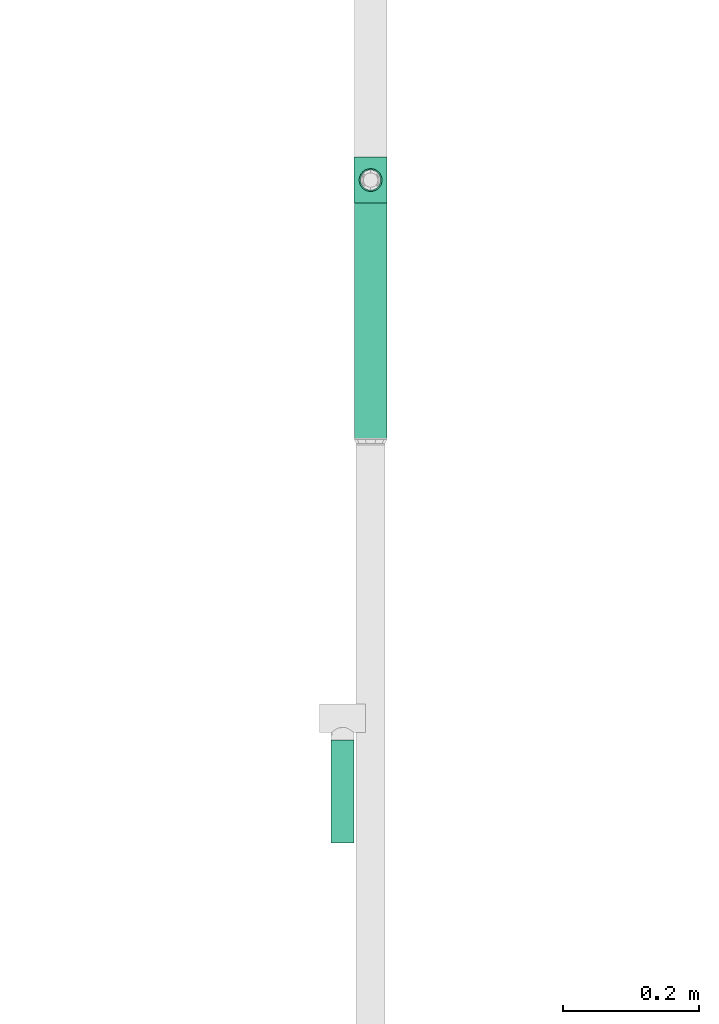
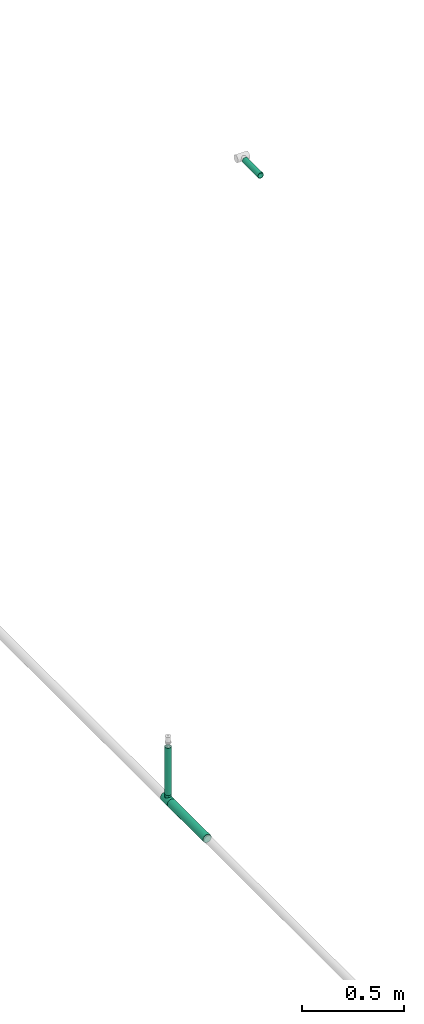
# One storey, part 16 of 63: 3 flow segments, 1 flow fitting.
"""IFC2X3 building model written with IfcOpenShell, lengths in millimetres."""

from ifc_helpers import new_model, entity, si_unit, converted_unit, derived_unit, direction, frame, origin_with_axes, origin_2d_with_axis, place, context, subcontext, project, spatial, hollow_circle, extrude, open_shell, surface_model, source, transform, mapped, type_object, element, save


model = new_model("IFC2X3")

# Units and contexts
model_context = context("Model", 3, precision=0.01, world=frame((0.0, 4.29681676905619e-09, 0.0)), true_north=direction((4.01073788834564e-13, 1.0)))
plan_context = context("Plan", 3, precision=0.01, world=frame((0.0, 4.29681676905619e-09, 0.0)), true_north=direction((4.01073788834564e-13, 1.0)))
body_context = subcontext(model_context, "Body", "Model", "MODEL_VIEW")
ifc_project = project(units=[converted_unit("PLANEANGLEUNIT", "DEGREE", entity("IfcPositiveLengthMeasure", 0.0174532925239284), si_unit("PLANEANGLEUNIT", "RADIAN"), dimensions=[0, 0, 0, 0, 0, 0, 0]), si_unit("AREAUNIT", "SQUARE_METRE"), si_unit("LENGTHUNIT", "METRE", prefix="MILLI"), si_unit("MASSUNIT", "GRAM", prefix="KILO"), si_unit("POWERUNIT", "WATT"), si_unit("PRESSUREUNIT", "PASCAL", prefix="KILO"), si_unit("FORCEUNIT", "NEWTON", prefix="KILO"), si_unit("ELECTRICVOLTAGEUNIT", "VOLT"), si_unit("ELECTRICCURRENTUNIT", "AMPERE"), si_unit("THERMODYNAMICTEMPERATUREUNIT", "DEGREE_CELSIUS"), si_unit("TIMEUNIT", "SECOND"), si_unit("VOLUMEUNIT", "CUBIC_METRE"), derived_unit("LINEARVELOCITYUNIT", [(si_unit("LENGTHUNIT", "METRE"), 1), (si_unit("TIMEUNIT", "SECOND"), -1)]), derived_unit("VOLUMETRICFLOWRATEUNIT", [(si_unit("VOLUMEUNIT", "CUBIC_METRE"), 1), (si_unit("TIMEUNIT", "SECOND"), -1)]), derived_unit("THERMALTRANSMITTANCEUNIT", [(si_unit("POWERUNIT", "WATT"), 1), (si_unit("THERMODYNAMICTEMPERATUREUNIT", "KELVIN"), -1), (si_unit("AREAUNIT", "SQUARE_METRE"), -1)]), derived_unit("SOUNDPRESSUREUNIT", [(si_unit("PRESSUREUNIT", "PASCAL"), 1)])], contexts=[model_context, plan_context])

# Site, building, storey
site_placement = place(None, frame((0.0, -4.29681676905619e-09, 0.0), z_axis=(0.0, 0.0, 1.0), x_axis=(1.0, 0.0, 0.0)))
site = spatial("IfcSite", under=ifc_project, at=site_placement, CompositionType="ELEMENT")
building_placement = place(site_placement, frame((0.0, 4.29681676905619e-09, 0.0), z_axis=(0.0, 0.0, 1.0), x_axis=(1.0, 0.0, 0.0)))
building = spatial("IfcBuilding", under=site, at=building_placement, Name="mc-building", CompositionType="ELEMENT")
storey_placement = place(building_placement, frame((0.0, 0.0, 207370.0), z_axis=(0.0, 0.0, 1.0), x_axis=(1.0, 0.0, 0.0)))
storey = spatial("IfcBuildingStorey", under=building, at=storey_placement, Name="Nivå E", CompositionType="ELEMENT", Elevation=207370.0)

# Flow fitting
pipe_fitting_type = type_object("IfcPipeFittingType", Name="magi_pipe_fe_tee_centric_90_NOR", PredefinedType="JUNCTION")
shared_shape_1 = source(origin_with_axes(), body_context, "Body", "SurfaceModel", [
    surface_model("IfcShellBasedSurfaceModel", [(-33.8, 0.0, -24.2), (-33.8, -6.26342, -23.37541), (-33.8, 6.26342, -23.37541), (-33.8, 12.1, -20.95781), (-33.8, 17.11198, -17.11198), (-33.8, 20.95781, -12.1), (-33.8, -23.37541, -6.26342), (-33.8, 23.37541, -6.26342), (-33.8, -17.11198, -17.11198), (-33.8, -20.95781, -12.1), (-33.8, -12.1, -20.95781), (-33.8, -24.2, 0.0), (-33.8, -23.37541, 6.26342), (-33.8, 20.95781, 12.1), (-33.8, 23.37541, 6.26342), (-33.8, 24.2, 0.0), (-33.8, 12.1, 20.95781), (-33.8, 17.11198, 17.11198), (-33.8, -17.11198, 17.11198), (-33.8, 6.26342, 23.37541), (-33.8, -20.95781, 12.1), (-33.8, -12.1, 20.95781), (-33.8, -6.26342, 23.37541), (-33.8, 0.0, 24.2), (33.8, 6.26342, -23.37541), (33.8, -6.26342, -23.37541), (33.8, 0.0, -24.2), (33.8, 17.11198, -17.11198), (33.8, 12.1, -20.95781), (33.8, -23.37541, -6.26342), (33.8, 20.95781, -12.1), (33.8, 23.37541, -6.26342), (33.8, -17.11198, -17.11198), (33.8, -12.1, -20.95781), (33.8, -20.95781, -12.1), (33.8, -24.2, 0.0), (33.8, 24.2, 0.0), (33.8, 23.37541, 6.26342), (33.8, 20.95781, 12.1), (33.8, -23.37541, 6.26342), (33.8, -17.11198, 17.11198), (33.8, 12.1, 20.95781), (33.8, 17.11198, 17.11198), (33.8, 6.26342, 23.37541), (33.8, -20.95781, 12.1), (33.8, -12.1, 20.95781), (33.8, 0.0, 24.2), (33.8, -6.26342, 23.37541), (15.81824, -23.45734, 5.94922), (16.9, -24.2, 0.0), (12.87025, -21.57947, 10.95293), (33.8, -19.0349, 14.60599), (8.52813, -19.30697, 14.59044), (3.03527, -17.5853, 16.6252), (-3.04044, -17.58619, 16.62425), (-8.52961, -19.30762, 14.58958), (-33.8, -19.0349, 14.60599), (-16.9, -24.2, 0.0), (-15.81885, -23.45775, 5.9476), (-12.87368, -21.58151, 10.9489), (3.03527, -17.5853, -16.6252), (33.8, -19.0349, -14.60599), (8.52813, -19.30697, -14.59044), (-8.52961, -19.30762, -14.58958), (-33.8, -19.0349, -14.60599), (12.87025, -21.57947, -10.95293), (-3.04044, -17.58619, -16.62425), (15.81824, -23.45734, -5.94922), (-12.87368, -21.58151, -10.9489), (-15.81885, -23.45775, -5.9476), (4.37404, -36.3, -16.32415), (-16.9, -36.3, 0.0), (0.0, -36.3, -16.9), (14.63583, -36.3, -8.45), (8.45, -36.3, -14.63583), (16.32415, -36.3, -4.37404), (11.9501, -36.3, -11.9501), (-11.9501, -36.3, -11.9501), (-8.45, -36.3, -14.63583), (-4.37404, -36.3, -16.32415), (-14.63583, -36.3, -8.45), (-16.32415, -36.3, -4.37404), (16.9, -36.3, 0.0), (8.45, -36.3, 14.63583), (16.32415, -36.3, 4.37404), (14.63583, -36.3, 8.45), (-8.45, -36.3, 14.63583), (11.9501, -36.3, 11.9501), (4.37404, -36.3, 16.32415), (-16.32415, -36.3, 4.37404), (-11.9501, -36.3, 11.9501), (-14.63583, -36.3, 8.45), (0.0, -36.3, 16.9), (-4.37404, -36.3, 16.32415), (-16.35943, -23.82888, 2.9738), (16.35912, -23.82867, 2.97461), (-0.00259, -17.58575, 16.62472), (16.35912, -23.82867, -2.97461), (-0.00259, -17.58575, -16.62472), (-16.35943, -23.82888, -2.9738)], [open_shell([[[0, 1, 2]], [[3, 2, 4]], [[5, 2, 6]], [[4, 2, 5]], [[7, 5, 6]], [[8, 9, 10]], [[1, 10, 9]], [[1, 9, 2]], [[9, 6, 2]], [[6, 11, 7]], [[11, 12, 7]], [[13, 14, 15]], [[13, 15, 12]], [[16, 17, 18]], [[12, 17, 13]], [[19, 16, 18]], [[20, 18, 12]], [[18, 17, 12]], [[21, 22, 18]], [[23, 18, 22]], [[18, 23, 19]], [[7, 12, 15]], [[24, 25, 26]], [[27, 24, 28]], [[29, 24, 30]], [[30, 24, 27]], [[29, 30, 31]], [[25, 32, 33]], [[32, 25, 34]], [[24, 34, 25]], [[24, 29, 34]], [[31, 35, 29]], [[31, 36, 35]], [[36, 37, 38]], [[39, 36, 38]], [[40, 38, 41]], [[41, 38, 42]], [[40, 41, 43]], [[39, 40, 44]], [[39, 38, 40]], [[45, 46, 47]], [[46, 45, 40]], [[43, 46, 40]], [[36, 39, 35]], [[35, 39, 48]], [[48, 49, 35]], [[39, 50, 48]], [[51, 40, 52]], [[52, 50, 44]], [[53, 52, 40]], [[54, 53, 21]], [[44, 50, 39]], [[55, 18, 56]], [[57, 58, 11]], [[12, 11, 58]], [[58, 59, 12]], [[55, 54, 18]], [[55, 20, 59]], [[20, 55, 56]], [[59, 20, 12]], [[18, 54, 21]], [[52, 44, 51]], [[53, 40, 45]], [[23, 47, 46]], [[22, 45, 47]], [[19, 46, 43]], [[38, 37, 14]], [[17, 41, 42]], [[13, 42, 38]], [[43, 41, 16]], [[15, 37, 36]], [[21, 45, 22]], [[22, 47, 23]], [[19, 23, 46]], [[43, 16, 19]], [[16, 41, 17]], [[13, 17, 42]], [[14, 13, 38]], [[37, 15, 14]], [[45, 21, 53]], [[5, 31, 30]], [[7, 36, 31]], [[4, 30, 27]], [[26, 25, 1]], [[2, 28, 24]], [[0, 24, 26]], [[27, 28, 3]], [[10, 25, 33]], [[15, 36, 7]], [[7, 31, 5]], [[4, 5, 30]], [[27, 3, 4]], [[3, 28, 2]], [[0, 2, 24]], [[1, 0, 26]], [[25, 10, 1]], [[33, 60, 10]], [[61, 34, 62]], [[63, 9, 64]], [[62, 60, 32]], [[34, 65, 62]], [[66, 10, 60]], [[29, 35, 67]], [[67, 65, 29]], [[49, 67, 35]], [[29, 65, 34]], [[66, 63, 8]], [[62, 32, 61]], [[64, 8, 63]], [[63, 68, 9]], [[8, 10, 66]], [[68, 69, 6]], [[69, 11, 6]], [[11, 69, 57]], [[68, 6, 9]], [[60, 33, 32]], [[70, 71, 72]], [[73, 70, 74]], [[73, 75, 70]], [[73, 74, 76]], [[71, 70, 75]], [[72, 77, 78]], [[78, 79, 72]], [[80, 71, 81]], [[77, 72, 80]], [[71, 80, 72]], [[75, 82, 71]], [[83, 82, 84]], [[83, 84, 85]], [[86, 71, 83]], [[83, 85, 87]], [[86, 83, 88]], [[89, 90, 91]], [[90, 89, 86]], [[86, 92, 93]], [[89, 71, 86]], [[88, 92, 86]], [[83, 71, 82]], [[89, 94, 71]], [[59, 91, 90]], [[89, 91, 58]], [[90, 86, 55]], [[89, 58, 94]], [[94, 57, 71]], [[58, 91, 59]], [[95, 48, 84]], [[55, 93, 54]], [[55, 59, 90]], [[92, 53, 96]], [[55, 86, 93]], [[53, 92, 88]], [[83, 52, 88]], [[87, 85, 50]], [[87, 52, 83]], [[48, 85, 84]], [[87, 50, 52]], [[52, 53, 88]], [[82, 95, 84]], [[48, 50, 85]], [[95, 82, 49]], [[92, 54, 93]], [[96, 54, 92]], [[75, 97, 82]], [[65, 73, 76]], [[75, 73, 67]], [[76, 74, 62]], [[97, 49, 82]], [[67, 73, 65]], [[62, 70, 60]], [[62, 65, 76]], [[72, 66, 98]], [[62, 74, 70]], [[99, 71, 57]], [[99, 69, 81]], [[75, 67, 97]], [[79, 66, 72]], [[69, 80, 81]], [[77, 80, 68]], [[72, 60, 70]], [[79, 63, 66]], [[63, 79, 78]], [[78, 77, 63]], [[63, 77, 68]], [[68, 80, 69]], [[71, 99, 81]], [[98, 60, 72]]])]),
])
flow_fitting_placement = place(storey_placement, frame((728641.29045, 437211.81651, 2700.0), z_axis=(-1.0, 0.0, 0.0), x_axis=(0.0, 1.0, 0.0)))
element("IfcFlowFitting", 1, at=flow_fitting_placement, inside=storey, type_object=pipe_fitting_type, Name="magi_pipe_fe_tee_centric_90_NOR", context=body_context, shape_type="MappedRepresentation", body=[
    mapped(shared_shape_1, transform((0.0, 0.0, 0.0), scale=1.0)),
])

# Flow segments
pipe_segment_type = type_object("IfcPipeSegmentType", Name="Stålrør normaltykke", PredefinedType="RIGIDSEGMENT")
shared_shape_2 = source(origin_with_axes(), body_context, "Body", "SweptSolid", [
    extrude(hollow_circle(Radius=24.1, WallThickness=2.0, at=origin_2d_with_axis()), frame((0.0, 0.0, 0.0), z_axis=(1.0, 0.0, 0.0), x_axis=(0.0, 1.0, 0.0)), (0.0, 0.0, 1.0), 348.6),
])
flow_segment_1_placement = place(storey_placement, frame((728641.29045, 437178.01651, 2700.0), z_axis=(0.0, 0.0, 1.0), x_axis=(0.0, -1.0, 0.0)))
element("IfcFlowSegment", 2, at=flow_segment_1_placement, inside=storey, type_object=pipe_segment_type, Name="Stålrør normaltykke", context=body_context, shape_type="MappedRepresentation", body=[
    mapped(shared_shape_2, transform((0.0, 0.0, 0.0), scale=1.0)),
])
shared_shape_3 = source(origin_with_axes(), body_context, "Body", "SweptSolid", [
    extrude(hollow_circle(Radius=16.9, WallThickness=2.0, at=origin_2d_with_axis()), frame((0.0, 0.0, 0.0), z_axis=(1.0, 0.0, 0.0), x_axis=(0.0, 1.0, 0.0)), (0.0, 0.0, 1.0), 282.1),
])
flow_segment_2_placement = place(storey_placement, frame((728641.29045, 437211.81651, 2736.29999999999), z_axis=(1.0, 0.0, 0.0), x_axis=(0.0, 0.0, 1.0)))
element("IfcFlowSegment", 3, at=flow_segment_2_placement, inside=storey, type_object=pipe_segment_type, Name="Stålrør normaltykke", context=body_context, shape_type="MappedRepresentation", body=[
    mapped(shared_shape_3, transform((0.0, 0.0, 0.0), scale=1.0)),
])
shared_shape_4 = source(origin_with_axes(), body_context, "Body", "SweptSolid", [
    extrude(hollow_circle(Radius=16.9, WallThickness=2.0, at=origin_2d_with_axis()), frame((0.0, 0.0, 0.0), z_axis=(1.0, 0.0, 0.0), x_axis=(0.0, 1.0, 0.0)), (0.0, 0.0, 1.0), 151.8),
])
flow_segment_3_placement = place(storey_placement, frame((728600.0, 436234.5, 7030.0), z_axis=(0.0, 0.0, 1.0), x_axis=(0.0, 1.0, 0.0)))
element("IfcFlowSegment", 4, at=flow_segment_3_placement, inside=storey, type_object=pipe_segment_type, Name="Stålrør normaltykke", context=body_context, shape_type="MappedRepresentation", body=[
    mapped(shared_shape_4, transform((0.0, 0.0, 0.0), scale=1.0)),
])

save(model, "model.ifc")
